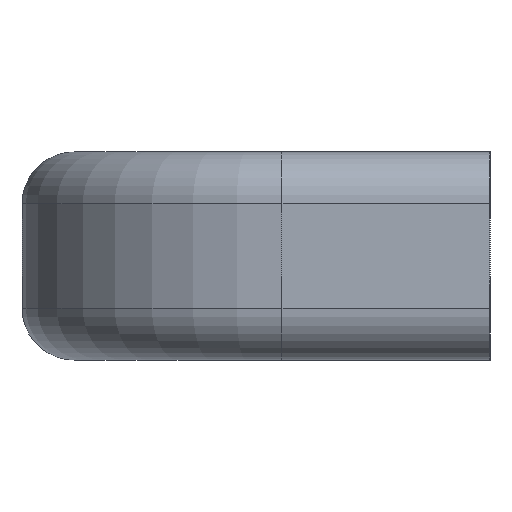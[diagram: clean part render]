
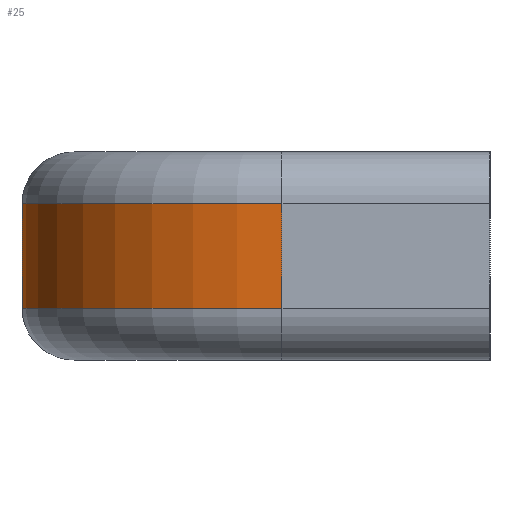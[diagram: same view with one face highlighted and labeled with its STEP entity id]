
A CAD part, left-side view. The second image highlights one B-rep face of the part: STEP entity #25.
In plain terms, the highlighted cylindrical face has radius 25 mm (diameter 50 mm), a partial arc.
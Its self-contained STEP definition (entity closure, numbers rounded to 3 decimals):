
#2 = CARTESIAN_POINT ( 'NONE',  ( -75., 20., 5. ) ) ;
#20 = VERTEX_POINT ( 'NONE', #2 ) ;
#21 = EDGE_LOOP ( 'NONE', ( #213, #210, #206, #205 ) ) ;
#25 = ADVANCED_FACE ( 'NONE', ( #29 ), #32, .T. ) ;
#27 = DIRECTION ( 'NONE',  ( 0., 0., -1. ) ) ;
#28 = DIRECTION ( 'NONE',  ( -1., 0., 0. ) ) ;
#29 = FACE_OUTER_BOUND ( 'NONE', #21, .T. ) ;
#30 = CARTESIAN_POINT ( 'NONE',  ( -50., 20., 0. ) ) ;
#31 = AXIS2_PLACEMENT_3D ( 'NONE', #30, #27, #28 ) ;
#32 = CYLINDRICAL_SURFACE ( 'NONE', #31, 25. ) ;
#204 = EDGE_CURVE ( 'NONE', #784, #686, #350, .T. ) ;
#205 = ORIENTED_EDGE ( 'NONE', *, *, #204, .F. ) ;
#206 = ORIENTED_EDGE ( 'NONE', *, *, #689, .F. ) ;
#210 = ORIENTED_EDGE ( 'NONE', *, *, #212, .T. ) ;
#212 = EDGE_CURVE ( 'NONE', #20, #687, #342, .T. ) ;
#213 = ORIENTED_EDGE ( 'NONE', *, *, #215, .T. ) ;
#215 = EDGE_CURVE ( 'NONE', #784, #20, #385, .T. ) ;
#338 = DIRECTION ( 'NONE',  ( -1., 0., 0. ) ) ;
#339 = DIRECTION ( 'NONE',  ( 0., 0., -1. ) ) ;
#340 = CARTESIAN_POINT ( 'NONE',  ( -50., 20., 5. ) ) ;
#341 = AXIS2_PLACEMENT_3D ( 'NONE', #340, #339, #338 ) ;
#342 = CIRCLE ( 'NONE', #341, 25. ) ;
#347 = AXIS2_PLACEMENT_3D ( 'NONE', #348, #359, #357 ) ;
#348 = CARTESIAN_POINT ( 'NONE',  ( -50., 20., -5. ) ) ;
#350 = CIRCLE ( 'NONE', #347, 25. ) ;
#357 = DIRECTION ( 'NONE',  ( -1., 0., 0. ) ) ;
#359 = DIRECTION ( 'NONE',  ( 0., 0., -1. ) ) ;
#382 = DIRECTION ( 'NONE',  ( 0., 0., 1. ) ) ;
#383 = VECTOR ( 'NONE', #382, 1000. ) ;
#384 = CARTESIAN_POINT ( 'NONE',  ( -75., 20., 5. ) ) ;
#385 = LINE ( 'NONE', #384, #383 ) ;
#512 = DIRECTION ( 'NONE',  ( 0., 0., 1. ) ) ;
#513 = VECTOR ( 'NONE', #512, 1000. ) ;
#514 = CARTESIAN_POINT ( 'NONE',  ( -50., 45., 5. ) ) ;
#515 = LINE ( 'NONE', #514, #513 ) ;
#516 = CARTESIAN_POINT ( 'NONE',  ( -50., 45., 5. ) ) ;
#517 = CARTESIAN_POINT ( 'NONE',  ( -50., 45., -5. ) ) ;
#686 = VERTEX_POINT ( 'NONE', #517 ) ;
#687 = VERTEX_POINT ( 'NONE', #516 ) ;
#689 = EDGE_CURVE ( 'NONE', #686, #687, #515, .T. ) ;
#784 = VERTEX_POINT ( 'NONE', #935 ) ;
#935 = CARTESIAN_POINT ( 'NONE',  ( -75., 20., -5. ) ) ;
